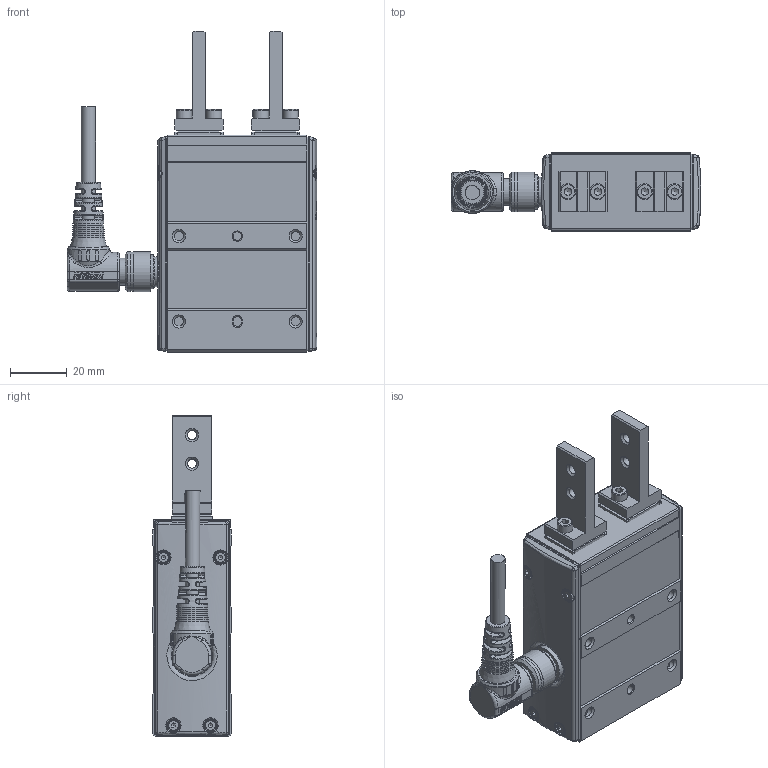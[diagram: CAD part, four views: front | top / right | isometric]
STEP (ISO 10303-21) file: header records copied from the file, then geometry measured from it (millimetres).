
FILE_DESCRIPTION(/* description */ (''),/* implementation_level */ '2;1');
FILE_NAME(/* name */ 'D:\2025.02.25 帶電匯整給泊舟\7. CHZ2系列\CHZ2-N10-WM.stp',/* time_stamp */ '2025-02-26T10:20:13+08:00',/* author */ ('T10033'),/* organization */ (''),/* preprocessor_version */ 'ST-DEVELOPER v18.1',/* originating_system */ 'Autodesk Inventor 2020',/* authorisation */ '');
FILE_SCHEMA (('CONFIG_CONTROL_DESIGN'));
Products named in the file (9): CHZ2-S10-WL; 11003-001130_珠溝研磨(單顆); 12008-000058; 慶陞金屬頭; 7 32T634TSSE3R_Shrinkwrap_1; 43T63T643; 夾頭-正式版; ANSI B18.3.1M - M3x0.5 x 10, FSHCSM; M12-14PIN 線端90度接頭-05中繼線
Assembly tree (14 placements, depth 3):
  CHZ2-S10-WL
    11003-001130_珠溝研磨(單顆)  x2
    12008-000058  x4
    慶陞金屬頭
    7 32T634TSSE3R_Shrinkwrap_1
    43T63T643  x2
      夾頭-正式版
      ANSI B18.3.1M - M3x0.5 x 10, FSHCSM
    M12-14PIN 線端90度接頭-05中繼線
Bounding box: 87.8 x 28 x 113 mm (x, y, z)
Volume: 124698.3 mm3; surface area: 42566.8 mm2
Topology: 41 solids, 45 shells, 2320 faces, 6351 edges, 4216 vertices
Faces by surface type: plane 1148, cylinder 512, cone 364, bspline 166, torus 110, sphere 20
Full cylindrical faces by diameter (mm): 0.6 x14, 0.65 x14, 1 x18, 1.567 x8, 2 x8, 2.013 x8, 2.459 x6, 3 x15, 3.2 x4, 3.242 x16, 3.8 x16, 4 x2, 5 x1, 5.5 x8, 6.647 x2, 8 x3, 8.9 x1, 9.5 x2, 9.6 x1, 10.5 x2, 10.9 x1, 11 x2, 11.2 x1, 11.25 x1, 12 x1, 13 x1, 13.8 x1, 14 x2, 14.4 x1
Entity records: 92648 total; most frequent: CARTESIAN_POINT 35972, ORIENTED_EDGE 11512, DIRECTION 11399, EDGE_CURVE 5764, AXIS2_PLACEMENT_3D 4332, VERTEX_POINT 3842, LINE 2735, VECTOR 2735
